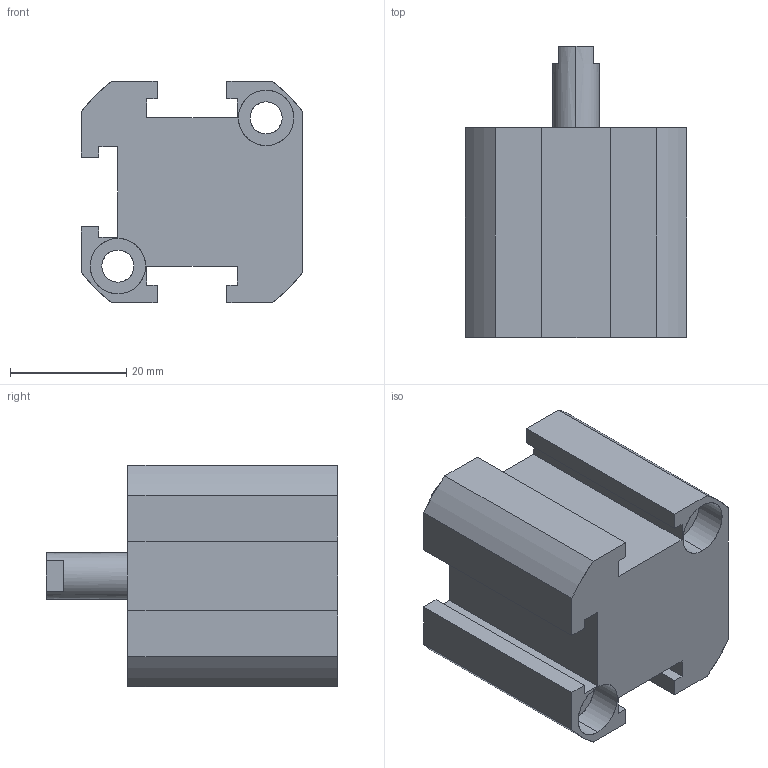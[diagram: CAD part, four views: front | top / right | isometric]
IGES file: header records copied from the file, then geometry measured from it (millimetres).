
Start section: SolidWorks IGES file using analytic representation for surfaces
Global section: file name: C:\Users\Toshiba\Desktop\XC#0-20D-10.IGS; native system: SolidWorks 2014; preprocessor: SolidWorks 2014; author: Toshiba; date: 160523.145426; units: millimetre
Bounding box: 38 x 50 x 38 mm (x, y, z)
Surface area: 11685.5 mm2 (no closed solid volume)
Topology: 0 solids, 0 shells, 85 faces, 1211 edges, 1207 vertices
Faces by surface type: bspline 44, revolution 41
